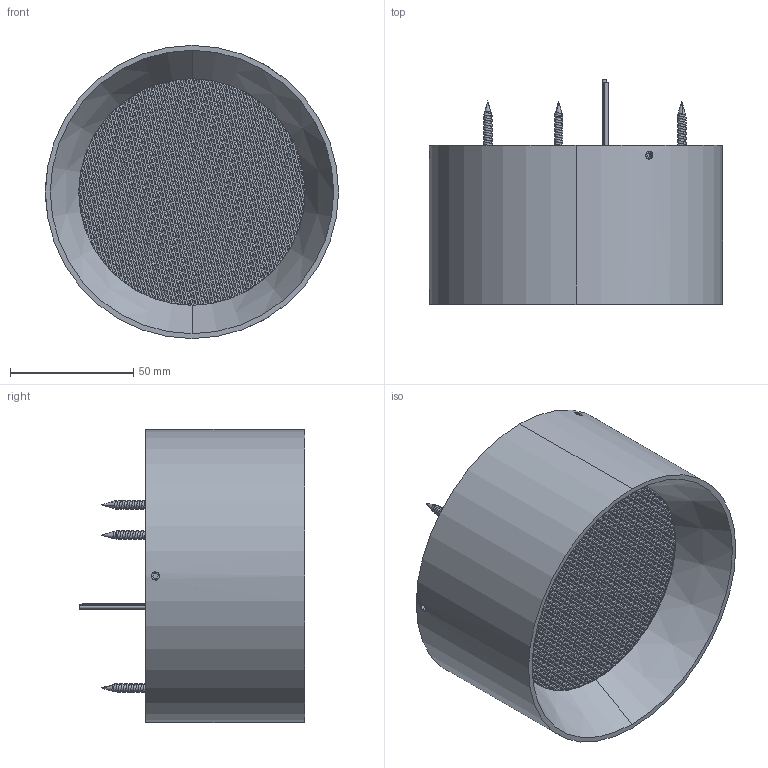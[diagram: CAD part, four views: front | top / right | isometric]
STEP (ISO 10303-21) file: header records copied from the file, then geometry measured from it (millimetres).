
FILE_DESCRIPTION (( 'STEP AP214' ), '1' );
FILE_NAME ('PAN-SU1010.STEP', '2020-06-10T01:12:41', ( 'user' ), ( '' ), 'SwSTEP 2.0', 'SolidWorks 2017', '' );
FILE_SCHEMA (( 'AUTOMOTIVE_DESIGN' ));
Length unit declared in the file: millimetre
Products named in the file (23): VIL-安全卡扣; M3俋喘貌侗; PAN-SU1010; M4X25沉头十字自攻螺丝; ￠1.0X150安全线; M4X3囀鞠褒蹟佪; PAN-SU1010-腑极; PAN-SU1010-柲階啣; PAN-10W-孺汃情臚え; PAN-10W-扩散板（纹面）; 100x2胶圈; PAN-10W-毀嫖祧; 0.3す源X10CM酗窪盄; 0.3す源X10CM酗綻盄; 耳4寡蝶杶奪; 内径6，护线胶圈; HEP 4725驱动; 27X30漆蹬ㄗ窪伎ㄘ; PAN-10W嫖埭; M3X4埴芛囀鞠褒蹟佪; PAN-10W-絳嫖啣; 僭倛揤盄啣; FA-W02-10W-綴裔
Assembly tree (29 placements, depth 2):
  PAN-SU1010
    FA-W02-10W-綴裔
    PAN-10W-絳嫖啣
    PAN-10W嫖埭
    27X30漆蹬ㄗ窪伎ㄘ
    HEP 4725驱动
    内径6，护线胶圈
    耳4寡蝶杶奪
    0.3す源X10CM酗綻盄
    0.3す源X10CM酗窪盄
    PAN-10W-毀嫖祧
    100x2胶圈
    PAN-10W-扩散板（纹面）
    PAN-10W-孺汃情臚え
    PAN-SU1010-柲階啣
    PAN-SU1010-腑极
    M4X3囀鞠褒蹟佪  x3
    ￠1.0X150安全线  x2
    M4X25沉头十字自攻螺丝  x3
    M3俋喘貌侗  x2
    VIL-安全卡扣
    僭倛揤盄啣
    M3X4埴芛囀鞠褒蹟佪  x2
Bounding box: 119 x 91.34 x 119 mm (x, y, z)
Volume: 231001.5 mm3; surface area: 176318.7 mm2
Topology: 29 solids, 29 shells, 9548 faces, 19496 edges, 12223 vertices
Faces by surface type: plane 9166, cylinder 266, cone 53, bspline 36, torus 25, sphere 2
Entity records: 240339 total; most frequent: CARTESIAN_POINT 43381, DIRECTION 38087, ORIENTED_EDGE 37932, EDGE_CURVE 18966, VECTOR 18335, LINE 18335, VERTEX_POINT 11892, EDGE_LOOP 11632
